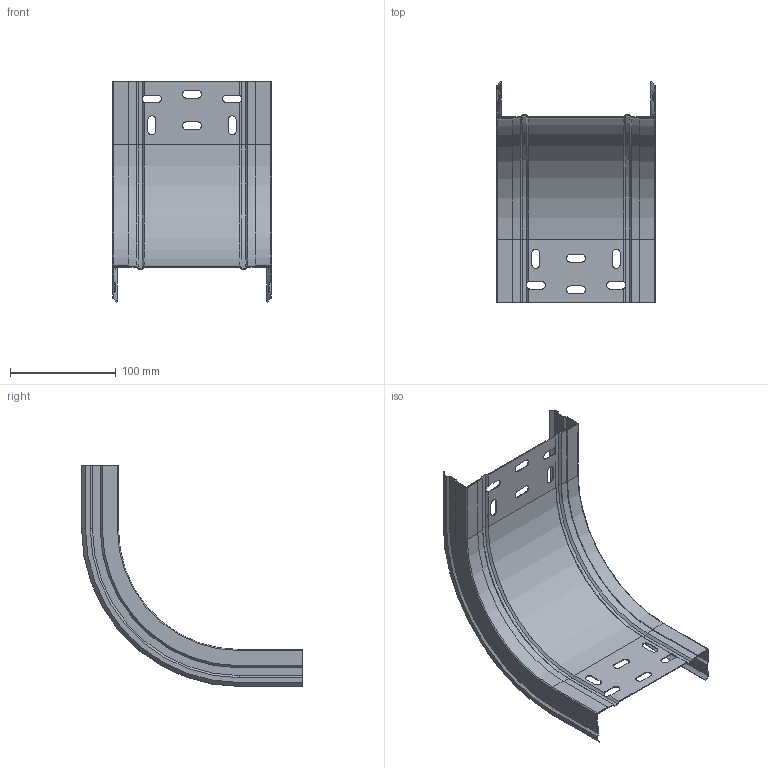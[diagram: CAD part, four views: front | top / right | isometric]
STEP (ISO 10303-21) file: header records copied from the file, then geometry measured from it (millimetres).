
FILE_DESCRIPTION (( 'STEP AP203' ), '1' );
FILE_NAME ('ERE_CONVEXA 150x35.step', '2023-07-27T18:48:41', ( '' ), ( '' ), 'SwSTEP 2.0', 'SolidWorks 2022', '' );
FILE_SCHEMA (( 'CONFIG_CONTROL_DESIGN' ));
Length unit declared in the file: millimetre
Products named in the file (3): ERE_BASE CX_150; ERE_LATERAL CX_35; ERE_CONVEXA 150x35
Assembly tree (3 placements, depth 2):
  ERE_CONVEXA 150x35
    ERE_BASE CX_150
    ERE_LATERAL CX_35  x2
Bounding box: 150 x 209.2 x 209.2 mm (x, y, z)
Volume: 61878.9 mm3; surface area: 157071.1 mm2
Topology: 3 solids, 3 shells, 214 faces, 570 edges, 354 vertices
Faces by surface type: plane 134, cylinder 54, cone 22, torus 4
Entity records: 5551 total; most frequent: CARTESIAN_POINT 948, ORIENTED_EDGE 904, DIRECTION 896, EDGE_CURVE 452, VECTOR 324, LINE 324, AXIS2_PLACEMENT_3D 286, VERTEX_POINT 282
